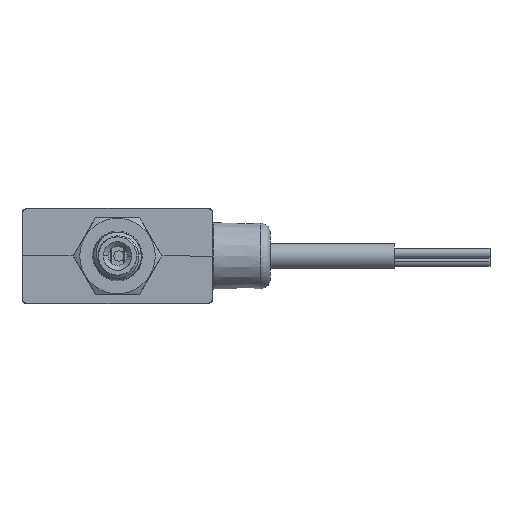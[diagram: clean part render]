
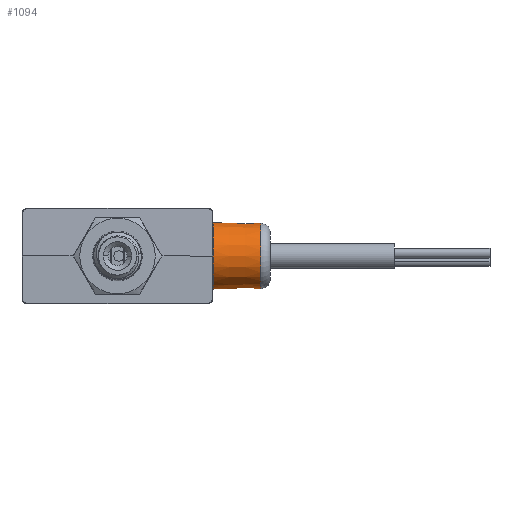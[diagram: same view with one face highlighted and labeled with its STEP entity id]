
A CAD part, front view. The second image highlights one B-rep face of the part: STEP entity #1094.
In plain terms, the highlighted conical face has half-angle 1 degrees and reference radius 3.456 mm.
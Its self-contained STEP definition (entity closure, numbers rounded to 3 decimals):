
#1094=ADVANCED_FACE('',(#2207,#2208),#2209,.T.);
#2207=FACE_OUTER_BOUND('',#4339,.T.);
#2208=FACE_BOUND('',#4340,.T.);
#2209=CONICAL_SURFACE('',#4341,3.456,0.017);
#4339=EDGE_LOOP('',(#7531));
#4340=EDGE_LOOP('',(#7532));
#4341=AXIS2_PLACEMENT_3D('',#7533,#7534,#7535);
#7531=ORIENTED_EDGE('',*,*,#8912,.T.);
#7532=ORIENTED_EDGE('',*,*,#8914,.T.);
#7533=CARTESIAN_POINT('',(12.509,3.1,0.0));
#7534=DIRECTION('',(-1.0,0.0,-0.0));
#7535=DIRECTION('',(0.0,1.0,0.0));
#8912=EDGE_CURVE('',#10973,#10973,#10974,.T.);
#8914=EDGE_CURVE('',#10976,#10976,#10977,.T.);
#10973=VERTEX_POINT('',#15447);
#10974=CIRCLE('',#15448,3.5);
#10976=VERTEX_POINT('',#15450);
#10977=CIRCLE('',#15451,3.412);
#15447=CARTESIAN_POINT('',(10.0,6.6,0.0));
#15448=AXIS2_PLACEMENT_3D('',#16402,#16403,#16404);
#15450=CARTESIAN_POINT('',(15.017,6.512,0.0));
#15451=AXIS2_PLACEMENT_3D('',#16405,#16406,#16407);
#16402=CARTESIAN_POINT('',(10.0,3.1,0.0));
#16403=DIRECTION('',(1.0,0.0,0.0));
#16404=DIRECTION('',(0.0,1.0,0.0));
#16405=CARTESIAN_POINT('',(15.017,3.1,0.0));
#16406=DIRECTION('',(-1.0,0.0,0.0));
#16407=DIRECTION('',(0.0,1.0,0.0));
